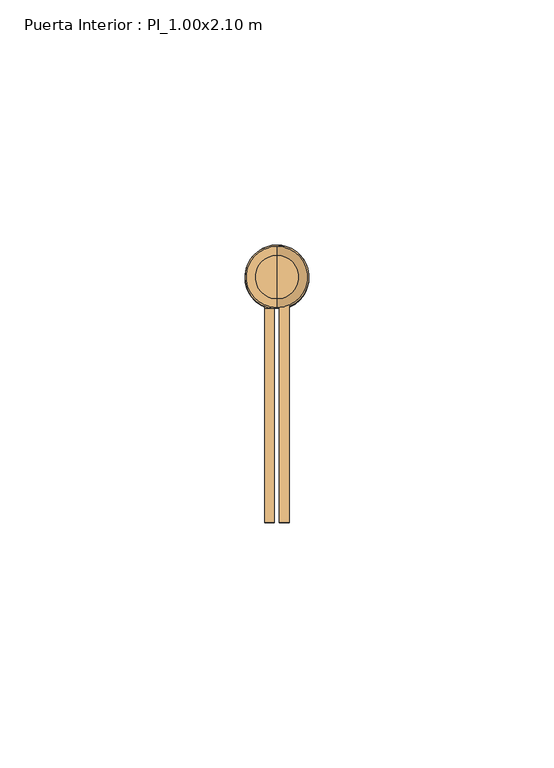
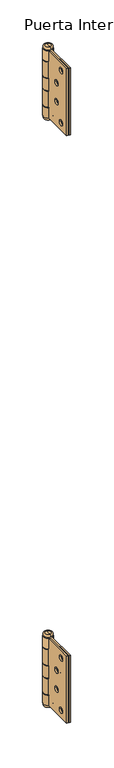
"""IFC4 building model written with IfcOpenShell, lengths in millimetres: door geometry, Puerta Interior : PI_1.00x2.10 m."""

from ifc_helpers import new_model, si_unit, point, frame, origin, place, context, project, spatial, polyline, circle_curve, ellipse_curve, trimmed, source, transform, mapped, element, save
from ifc_brep_helpers import plane_surface, cylinder_surface, revolved_surface, advanced_brep


def puerta_interior_pi_1_00x2_10_m_4a7fa07f(model_context):
    return source(origin(), model_context, "Body", "AdvancedBrep", [
        advanced_brep(
        [(-464.0, 7.5, 1950.0), (-464.0, 7.5, 1850.0), (-464.0, 51.5, 1850.0), (-464.0, 51.5, 1865.5), (-464.0, 51.0, 1865.5), (-464.0, 51.0, 1891.0), (-464.0, 51.5, 1891.0), (-464.0, 51.5, 1909.0), (-464.0, 51.0, 1909.0), (-464.0, 51.0, 1934.5), (-464.0, 51.5, 1934.5), (-464.0, 51.5, 1950.0), (-464.0, 17.5, 1861.0), (-464.0, 25.5, 1861.0), (-464.0, 28.5, 1886.0), (-464.0, 36.5, 1886.0), (-464.0, 17.5, 1939.0), (-464.0, 25.5, 1939.0), (-464.0, 28.5, 1914.0), (-464.0, 36.5, 1914.0), (-466.0, 7.5, 1850.0), (-466.0, 7.5, 1950.0), (-466.0, 53.027864, 1950.0), (-466.0, 53.027864, 1934.5), (-466.0, 51.0, 1934.5), (-466.0, 51.0, 1909.0), (-466.0, 53.027864, 1909.0), (-466.0, 53.027864, 1891.0), (-466.0, 51.0, 1891.0), (-466.0, 51.0, 1865.5), (-466.0, 53.027864, 1865.5), (-466.0, 53.027864, 1850.0), (-466.0, 25.5, 1861.0), (-466.0, 17.5, 1861.0), (-466.0, 36.5, 1886.0), (-466.0, 28.5, 1886.0), (-466.0, 25.5, 1939.0), (-466.0, 17.5, 1939.0), (-466.0, 36.5, 1914.0), (-466.0, 28.5, 1914.0), (-467.0, 53.027864, 1850.0), (-467.0, 51.0192593, 1850.0), (-467.0, 51.0192593, 1950.0), (-467.0, 53.027864, 1950.0), (-467.0, 53.027864, 1934.5), (-467.0, 51.0192593, 1934.5), (-467.0, 51.0192593, 1909.0), (-467.0, 53.027864, 1909.0), (-467.0, 53.027864, 1891.0), (-467.0, 51.0192593, 1891.0), (-467.0, 51.0192593, 1865.5), (-467.0, 53.027864, 1865.5)],
        [
            (0, 1),
            (1, 2),
            (2, 3),
            (3, 4),
            (4, 5),
            (5, 6),
            (6, 7),
            (7, 8),
            (8, 9),
            (9, 10),
            (10, 11),
            (11, 0),
            (12, 13, circle_curve(frame((-464.0, 21.5, 1861.0), z_axis=(-1.0, 0.0, 0.0), x_axis=(0.0, -1.0, 0.0)), 4.0)),
            (13, 12, circle_curve(frame((-464.0, 21.5, 1861.0), z_axis=(-1.0, 0.0, 0.0), x_axis=(0.0, -1.0, 0.0)), 4.0)),
            (14, 15, circle_curve(frame((-464.0, 32.5, 1886.0), z_axis=(-1.0, 0.0, 0.0), x_axis=(0.0, -1.0, 0.0)), 4.0)),
            (15, 14, circle_curve(frame((-464.0, 32.5, 1886.0), z_axis=(-1.0, 0.0, 0.0), x_axis=(0.0, -1.0, 0.0)), 4.0)),
            (16, 17, circle_curve(frame((-464.0, 21.5, 1939.0), z_axis=(-1.0, 0.0, 0.0), x_axis=(0.0, -1.0, 0.0)), 4.0)),
            (17, 16, circle_curve(frame((-464.0, 21.5, 1939.0), z_axis=(-1.0, 0.0, 0.0), x_axis=(0.0, -1.0, 0.0)), 4.0)),
            (18, 19, circle_curve(frame((-464.0, 32.5, 1914.0), z_axis=(-1.0, 0.0, 0.0), x_axis=(0.0, -1.0, 0.0)), 4.0)),
            (19, 18, circle_curve(frame((-464.0, 32.5, 1914.0), z_axis=(-1.0, 0.0, 0.0), x_axis=(0.0, -1.0, 0.0)), 4.0)),
            (20, 21),
            (21, 22),
            (22, 23),
            (23, 24),
            (24, 25),
            (25, 26),
            (26, 27),
            (27, 28),
            (28, 29),
            (29, 30),
            (30, 31),
            (31, 20),
            (32, 33, circle_curve(frame((-466.0, 21.5, 1861.0), z_axis=(1.0, 0.0, 0.0), x_axis=(0.0, -1.0, 0.0)), 4.0)),
            (33, 32, circle_curve(frame((-466.0, 21.5, 1861.0), z_axis=(1.0, 0.0, 0.0), x_axis=(0.0, -1.0, 0.0)), 4.0)),
            (34, 35, circle_curve(frame((-466.0, 32.5, 1886.0), z_axis=(1.0, 0.0, 0.0), x_axis=(0.0, -1.0, 0.0)), 4.0)),
            (35, 34, circle_curve(frame((-466.0, 32.5, 1886.0), z_axis=(1.0, 0.0, 0.0), x_axis=(0.0, -1.0, 0.0)), 4.0)),
            (36, 37, circle_curve(frame((-466.0, 21.5, 1939.0), z_axis=(1.0, 0.0, 0.0), x_axis=(0.0, -1.0, 0.0)), 4.0)),
            (37, 36, circle_curve(frame((-466.0, 21.5, 1939.0), z_axis=(1.0, 0.0, 0.0), x_axis=(0.0, -1.0, 0.0)), 4.0)),
            (38, 39, circle_curve(frame((-466.0, 32.5, 1914.0), z_axis=(1.0, 0.0, 0.0), x_axis=(0.0, -1.0, 0.0)), 4.0)),
            (39, 38, circle_curve(frame((-466.0, 32.5, 1914.0), z_axis=(1.0, 0.0, 0.0), x_axis=(0.0, -1.0, 0.0)), 4.0)),
            (1, 20),
            (31, 40, circle_curve(frame((-466.5, 57.5, 1850.0), z_axis=(0.0, 0.0, 1.0), x_axis=(0.0, 1.0, 0.0)), 4.5)),
            (40, 41),
            (41, 2, circle_curve(frame((-466.5, 57.5, 1850.0), z_axis=(0.0, 0.0, -1.0), x_axis=(0.0, 1.0, 0.0)), 6.5)),
            (0, 21),
            (11, 42, circle_curve(frame((-466.5, 57.5, 1950.0), z_axis=(0.0, 0.0, 1.0), x_axis=(0.0, 1.0, 0.0)), 6.5)),
            (42, 43),
            (43, 22, circle_curve(frame((-466.5, 57.5, 1950.0), z_axis=(0.0, 0.0, -1.0), x_axis=(0.0, 1.0, 0.0)), 4.5)),
            (24, 9),
            (8, 25),
            (28, 5),
            (4, 29),
            (23, 44, circle_curve(frame((-466.5, 57.5, 1934.5), z_axis=(0.0, 0.0, 1.0), x_axis=(0.0, 1.0, 0.0)), 4.5)),
            (44, 45),
            (45, 10, circle_curve(frame((-466.5, 57.5, 1934.5), z_axis=(0.0, 0.0, -1.0), x_axis=(0.0, 1.0, 0.0)), 6.5)),
            (45, 42),
            (44, 43),
            (7, 46, circle_curve(frame((-466.5, 57.5, 1909.0), z_axis=(0.0, 0.0, 1.0), x_axis=(0.0, 1.0, 0.0)), 6.5)),
            (46, 47),
            (47, 26, circle_curve(frame((-466.5, 57.5, 1909.0), z_axis=(0.0, 0.0, -1.0), x_axis=(0.0, 1.0, 0.0)), 4.5)),
            (27, 48, circle_curve(frame((-466.5, 57.5, 1891.0), z_axis=(0.0, 0.0, 1.0), x_axis=(0.0, 1.0, 0.0)), 4.5)),
            (48, 49),
            (49, 6, circle_curve(frame((-466.5, 57.5, 1891.0), z_axis=(0.0, 0.0, -1.0), x_axis=(0.0, 1.0, 0.0)), 6.5)),
            (49, 46),
            (48, 47),
            (3, 50, circle_curve(frame((-466.5, 57.5, 1865.5), z_axis=(0.0, 0.0, 1.0), x_axis=(0.0, 1.0, 0.0)), 6.5)),
            (50, 51),
            (51, 30, circle_curve(frame((-466.5, 57.5, 1865.5), z_axis=(0.0, 0.0, -1.0), x_axis=(0.0, 1.0, 0.0)), 4.5)),
            (41, 50),
            (40, 51),
            (32, 13),
            (12, 33),
            (34, 15),
            (14, 35),
            (36, 17),
            (16, 37),
            (38, 19),
            (18, 39),
        ],
        [
            plane_surface(frame((-464.0, 51.0, 1850.0), z_axis=(1.0, 0.0, 0.0), x_axis=(0.0, 0.0, 1.0))),
            plane_surface(frame((-466.0, 51.0, 1850.0), z_axis=(-1.0, 0.0, 0.0), x_axis=(0.0, 0.0, -1.0))),
            plane_surface(frame((-464.0, 7.5, 1850.0), z_axis=(0.0, 0.0, -1.0), x_axis=(-1.0, 0.0, 0.0))),
            plane_surface(frame((-464.0, 7.5, 1950.0), z_axis=(0.0, -1.0, 0.0), x_axis=(-1.0, 0.0, 0.0))),
            plane_surface(frame((-464.0, 51.0, 1950.0), z_axis=(0.0, 0.0, 1.0), x_axis=(-1.0, 0.0, 0.0))),
            plane_surface(frame((-464.0, 51.0, 1850.0), z_axis=(0.0, 1.0, 0.0), x_axis=(-1.0, 0.0, 0.0))),
            plane_surface(frame((-466.0, 51.0, 1934.5), z_axis=(0.0, 0.0, -1.0), x_axis=(0.0, 1.0, 0.0))),
            cylinder_surface(frame((-466.5, 57.5, 1934.5), z_axis=(0.0, 0.0, 1.0), x_axis=(0.0, 1.0, 0.0)), 6.5),
            plane_surface(frame((-467.0, 51.0192593, 1950.0), z_axis=(1.0, 0.0, 0.0), x_axis=(0.0, 0.0, -1.0))),
            revolved_surface(polyline([(-466.5, 62.0, 1934.5), (-466.5, 62.0, 1950.0)]), (-466.5, 57.5, 1934.5), (0.0, 0.0, -1.0)),
            plane_surface(frame((-466.0, 51.0, 1909.0), z_axis=(0.0, 0.0, 1.0), x_axis=(0.0, -1.0, 0.0))),
            plane_surface(frame((-466.0, 51.0, 1891.0), z_axis=(0.0, 0.0, -1.0), x_axis=(0.0, 1.0, 0.0))),
            cylinder_surface(frame((-466.5, 57.5, 1891.0), z_axis=(0.0, 0.0, 1.0), x_axis=(0.0, 1.0, 0.0)), 6.5),
            plane_surface(frame((-467.0, 51.0192593, 1909.0), z_axis=(1.0, 0.0, 0.0), x_axis=(0.0, 0.0, -1.0))),
            revolved_surface(polyline([(-466.5, 62.0, 1891.0), (-466.5, 62.0, 1909.0)]), (-466.5, 57.5, 1891.0), (0.0, 0.0, -1.0)),
            plane_surface(frame((-466.0, 51.0, 1865.5), z_axis=(0.0, 0.0, 1.0), x_axis=(0.0, -1.0, 0.0))),
            cylinder_surface(frame((-466.5, 57.5, 1850.0), z_axis=(0.0, 0.0, 1.0), x_axis=(0.0, 1.0, 0.0)), 6.5),
            plane_surface(frame((-467.0, 51.0192593, 1865.5), z_axis=(1.0, 0.0, 0.0), x_axis=(0.0, 0.0, -1.0))),
            revolved_surface(polyline([(-466.5, 62.0, 1850.0), (-466.5, 62.0, 1865.5)]), (-466.5, 57.5, 1850.0), (0.0, 0.0, -1.0)),
            revolved_surface(polyline([(-464.0, 17.5, 1861.0), (-466.0, 17.5, 1861.0)]), (-469.0, 21.5, 1861.0), (1.0, 0.0, 0.0)),
            revolved_surface(polyline([(-464.0, 28.5, 1886.0), (-466.0, 28.5, 1886.0)]), (-467.0, 32.5, 1886.0), (1.0, 0.0, 0.0)),
            revolved_surface(polyline([(-464.0, 17.5, 1939.0), (-466.0, 17.5, 1939.0)]), (-467.0, 21.5, 1939.0), (1.0, 0.0, 0.0)),
            revolved_surface(polyline([(-464.0, 28.5, 1914.0), (-466.0, 28.5, 1914.0)]), (-467.0, 32.5, 1914.0), (1.0, 0.0, 0.0)),
        ],
        [
            (0, [[1, 2, 3, 4, 5, 6, 7, 8, 9, 10, 11, 12], [13, 14], [15, 16], [17, 18], [19, 20]]),
            (1, [[21, 22, 23, 24, 25, 26, 27, 28, 29, 30, 31, 32], [33, 34], [35, 36], [37, 38], [39, 40]]),
            (2, [[41, -32, 42, 43, 44, -2]]),
            (3, [[-1, 45, -21, -41]]),
            (4, [[-45, -12, 46, 47, 48, -22]]),
            (5, [[49, -9, 50, -25]]),
            (5, [[51, -5, 52, -29]]),
            (6, [[53, 54, 55, -10, -49, -24]]),
            (7, [[-46, -11, -55, 56]]),
            (8, [[-47, -56, -54, 57]]),
            (9, [[-48, -57, -53, -23]]),
            (10, [[58, 59, 60, -26, -50, -8]]),
            (11, [[61, 62, 63, -6, -51, -28]]),
            (12, [[-58, -7, -63, 64]]),
            (13, [[-59, -64, -62, 65]]),
            (14, [[-60, -65, -61, -27]]),
            (15, [[66, 67, 68, -30, -52, -4]]),
            (16, [[-66, -3, -44, 69]]),
            (17, [[-67, -69, -43, 70]]),
            (18, [[-68, -70, -42, -31]]),
            (19, [[71, -13, 72, -33]]),
            (19, [[-71, -34, -72, -14]]),
            (20, [[73, -15, 74, -35]]),
            (20, [[-73, -36, -74, -16]]),
            (21, [[75, -17, 76, -37]]),
            (21, [[-75, -38, -76, -18]]),
            (22, [[77, -19, 78, -39]]),
            (22, [[-77, -40, -78, -20]]),
        ],
    ),
        advanced_brep(
        [(-466.5, 53.0, 1954.0), (-466.5, 61.9442719, 1954.0), (-466.5, 61.9442719, 1950.5), (-466.5, 53.0, 1950.5), (-466.5, 57.472136, 1954.0), (-466.5, 53.0, 1846.0), (-466.5, 61.9442719, 1846.0), (-466.5, 57.472136, 1846.0), (-466.5, 53.0, 1849.5), (-466.5, 61.9442719, 1849.5)],
        [
            (0, 1, circle_curve(frame((-466.5, 57.472136, 1954.0), z_axis=(0.0, 0.0, -1.0), x_axis=(0.0, 1.0, 0.0)), 4.472136)),
            (1, 2, circle_curve(frame((-466.5, 61.9442719, 1952.25), z_axis=(-1.0, 0.0, 0.0), x_axis=(0.0, -1.0, 0.0)), 1.75)),
            (2, 3, circle_curve(frame((-466.5, 57.472136, 1950.5), z_axis=(0.0, 0.0, 1.0), x_axis=(0.0, 1.0, 0.0)), 4.472136)),
            (3, 0, circle_curve(frame((-466.5, 53.0, 1952.25), z_axis=(-1.0, 0.0, 0.0), x_axis=(0.0, 1.0, 0.0)), 1.75)),
            (1, 0, circle_curve(frame((-466.5, 57.472136, 1954.0), z_axis=(0.0, 0.0, -1.0), x_axis=(0.0, 1.0, 0.0)), 4.472136)),
            (3, 2, circle_curve(frame((-466.5, 57.472136, 1950.5), z_axis=(0.0, 0.0, 1.0), x_axis=(0.0, 1.0, 0.0)), 4.472136)),
            (4, 1),
            (0, 4),
            (5, 6, circle_curve(frame((-466.5, 57.472136, 1846.0), z_axis=(0.0, 0.0, -1.0), x_axis=(0.0, 1.0, 0.0)), 4.472136)),
            (6, 7),
            (7, 5),
            (6, 5, circle_curve(frame((-466.5, 57.472136, 1846.0), z_axis=(0.0, 0.0, -1.0), x_axis=(0.0, 1.0, 0.0)), 4.472136)),
            (8, 9, circle_curve(frame((-466.5, 57.472136, 1849.5), z_axis=(0.0, 0.0, -1.0), x_axis=(0.0, 1.0, 0.0)), 4.472136)),
            (9, 6, circle_curve(frame((-466.5, 61.9442719, 1847.75), z_axis=(-1.0, 0.0, 0.0), x_axis=(0.0, -1.0, 0.0)), 1.75)),
            (5, 8, circle_curve(frame((-466.5, 53.0, 1847.75), z_axis=(-1.0, 0.0, 0.0), x_axis=(0.0, 1.0, 0.0)), 1.75)),
            (9, 8, circle_curve(frame((-466.5, 57.472136, 1849.5), z_axis=(0.0, 0.0, -1.0), x_axis=(0.0, 1.0, 0.0)), 4.472136)),
            (2, 9),
            (8, 3),
        ],
        [
            revolved_surface(trimmed(ellipse_curve(frame((-466.5, 61.9442719, 1952.25), z_axis=(1.0, 0.0, 0.0), x_axis=(0.0, -1.0, 0.0)), 1.75, 1.75), [point((-466.5, 61.9442719, 1950.5))], [point((-466.5, 61.9442719, 1954.0))], True, "CARTESIAN"), (-466.5, 57.472136, 1954.0), (0.0, 0.0, 1.0)),
            plane_surface(frame((-466.5, 57.472136, 1954.0), z_axis=(0.0, 0.0, 1.0), x_axis=(0.0, 1.0, 0.0))),
            plane_surface(frame((-466.5, 57.472136, 1846.0), z_axis=(0.0, 0.0, -1.0), x_axis=(0.0, 1.0, 0.0))),
            revolved_surface(trimmed(ellipse_curve(frame((-466.5, 61.9442719, 1847.75), z_axis=(1.0, 0.0, 0.0), x_axis=(0.0, -1.0, 0.0)), 1.75, 1.75), [point((-466.5, 61.9442719, 1846.0))], [point((-466.5, 61.9442719, 1849.5))], True, "CARTESIAN"), (-466.5, 57.472136, 1954.0), (0.0, 0.0, 1.0)),
            cylinder_surface(frame((-466.5, 57.472136, 1954.0), z_axis=(0.0, 0.0, 1.0), x_axis=(0.0, 1.0, 0.0)), 4.472136),
        ],
        [
            (0, [[1, 2, 3, 4]]),
            (0, [[5, -4, 6, -2]]),
            (1, [[7, -1, 8]]),
            (1, [[-8, -5, -7]]),
            (2, [[9, 10, 11]]),
            (2, [[12, -11, -10]]),
            (3, [[13, 14, -9, 15]]),
            (3, [[16, -15, -12, -14]]),
            (4, [[-3, 17, -13, 18]]),
            (4, [[-6, -18, -16, -17]]),
        ],
    ),
        advanced_brep(
        [(-467.0, 51.0, 1950.0), (-467.0, 7.5, 1950.0), (-467.0, 7.5, 1850.0), (-467.0, 51.0, 1850.0), (-467.0, 51.0, 1866.5), (-467.0, 53.027864, 1866.5), (-467.0, 53.027864, 1890.0), (-467.0, 51.0, 1890.0), (-467.0, 51.0, 1910.0), (-467.0, 53.027864, 1910.0), (-467.0, 53.027864, 1933.5), (-467.0, 51.0, 1933.5), (-467.0, 17.5, 1861.0), (-467.0, 25.5, 1861.0), (-467.0, 28.5, 1886.0), (-467.0, 36.5, 1886.0), (-467.0, 17.5, 1939.0), (-467.0, 25.5, 1939.0), (-467.0, 28.5, 1914.0), (-467.0, 36.5, 1914.0), (-469.0, 51.0, 1850.0), (-469.0, 7.5, 1850.0), (-469.0, 7.5, 1950.0), (-469.0, 51.0, 1950.0), (-469.0, 51.0, 1933.5), (-469.0, 51.5, 1933.5), (-469.0, 51.5, 1910.0), (-469.0, 51.0, 1910.0), (-469.0, 51.0, 1890.0), (-469.0, 51.5, 1890.0), (-469.0, 51.5, 1866.5), (-469.0, 51.0, 1866.5), (-469.0, 25.5, 1861.0), (-469.0, 17.5, 1861.0), (-469.0, 36.5, 1886.0), (-469.0, 28.5, 1886.0), (-469.0, 25.5, 1939.0), (-469.0, 17.5, 1939.0), (-469.0, 36.5, 1914.0), (-469.0, 28.5, 1914.0), (-466.0, 53.027864, 1933.5), (-466.0, 51.0192593, 1933.5), (-466.0, 51.0192593, 1910.0), (-466.0, 53.027864, 1910.0), (-466.0, 53.027864, 1890.0), (-466.0, 51.0192593, 1890.0), (-466.0, 51.0192593, 1866.5), (-466.0, 53.027864, 1866.5)],
        [
            (0, 1),
            (1, 2),
            (2, 3),
            (3, 4),
            (4, 5),
            (5, 6),
            (6, 7),
            (7, 8),
            (8, 9),
            (9, 10),
            (10, 11),
            (11, 0),
            (12, 13, circle_curve(frame((-467.0, 21.5, 1861.0), z_axis=(-1.0, 0.0, 0.0), x_axis=(0.0, -1.0, 0.0)), 4.0)),
            (13, 12, circle_curve(frame((-467.0, 21.5, 1861.0), z_axis=(-1.0, 0.0, 0.0), x_axis=(0.0, -1.0, 0.0)), 4.0)),
            (14, 15, circle_curve(frame((-467.0, 32.5, 1886.0), z_axis=(-1.0, 0.0, 0.0), x_axis=(0.0, -1.0, 0.0)), 4.0)),
            (15, 14, circle_curve(frame((-467.0, 32.5, 1886.0), z_axis=(-1.0, 0.0, 0.0), x_axis=(0.0, -1.0, 0.0)), 4.0)),
            (16, 17, circle_curve(frame((-467.0, 21.5, 1939.0), z_axis=(-1.0, 0.0, 0.0), x_axis=(0.0, -1.0, 0.0)), 4.0)),
            (17, 16, circle_curve(frame((-467.0, 21.5, 1939.0), z_axis=(-1.0, 0.0, 0.0), x_axis=(0.0, -1.0, 0.0)), 4.0)),
            (18, 19, circle_curve(frame((-467.0, 32.5, 1914.0), z_axis=(-1.0, 0.0, 0.0), x_axis=(0.0, -1.0, 0.0)), 4.0)),
            (19, 18, circle_curve(frame((-467.0, 32.5, 1914.0), z_axis=(-1.0, 0.0, 0.0), x_axis=(0.0, -1.0, 0.0)), 4.0)),
            (20, 21),
            (21, 22),
            (22, 23),
            (23, 24),
            (24, 25),
            (25, 26),
            (26, 27),
            (27, 28),
            (28, 29),
            (29, 30),
            (30, 31),
            (31, 20),
            (32, 33, circle_curve(frame((-469.0, 21.5, 1861.0), z_axis=(1.0, 0.0, 0.0), x_axis=(0.0, -1.0, 0.0)), 4.0)),
            (33, 32, circle_curve(frame((-469.0, 21.5, 1861.0), z_axis=(1.0, 0.0, 0.0), x_axis=(0.0, -1.0, 0.0)), 4.0)),
            (34, 35, circle_curve(frame((-469.0, 32.5, 1886.0), z_axis=(1.0, 0.0, 0.0), x_axis=(0.0, -1.0, 0.0)), 4.0)),
            (35, 34, circle_curve(frame((-469.0, 32.5, 1886.0), z_axis=(1.0, 0.0, 0.0), x_axis=(0.0, -1.0, 0.0)), 4.0)),
            (36, 37, circle_curve(frame((-469.0, 21.5, 1939.0), z_axis=(1.0, 0.0, 0.0), x_axis=(0.0, -1.0, 0.0)), 4.0)),
            (37, 36, circle_curve(frame((-469.0, 21.5, 1939.0), z_axis=(1.0, 0.0, 0.0), x_axis=(0.0, -1.0, 0.0)), 4.0)),
            (38, 39, circle_curve(frame((-469.0, 32.5, 1914.0), z_axis=(1.0, 0.0, 0.0), x_axis=(0.0, -1.0, 0.0)), 4.0)),
            (39, 38, circle_curve(frame((-469.0, 32.5, 1914.0), z_axis=(1.0, 0.0, 0.0), x_axis=(0.0, -1.0, 0.0)), 4.0)),
            (2, 21),
            (20, 3),
            (1, 22),
            (0, 23),
            (11, 24),
            (31, 4),
            (27, 8),
            (7, 28),
            (10, 40, circle_curve(frame((-466.5, 57.5, 1933.5), z_axis=(0.0, 0.0, -1.0), x_axis=(0.0, 1.0, 0.0)), 4.5)),
            (40, 41),
            (41, 25, circle_curve(frame((-466.5, 57.5, 1933.5), z_axis=(0.0, 0.0, 1.0), x_axis=(0.0, 1.0, 0.0)), 6.5)),
            (26, 42, circle_curve(frame((-466.5, 57.5, 1910.0), z_axis=(0.0, 0.0, -1.0), x_axis=(0.0, 1.0, 0.0)), 6.5)),
            (42, 43),
            (43, 9, circle_curve(frame((-466.5, 57.5, 1910.0), z_axis=(0.0, 0.0, 1.0), x_axis=(0.0, 1.0, 0.0)), 4.5)),
            (41, 42),
            (40, 43),
            (6, 44, circle_curve(frame((-466.5, 57.5, 1890.0), z_axis=(0.0, 0.0, -1.0), x_axis=(0.0, 1.0, 0.0)), 4.5)),
            (44, 45),
            (45, 29, circle_curve(frame((-466.5, 57.5, 1890.0), z_axis=(0.0, 0.0, 1.0), x_axis=(0.0, 1.0, 0.0)), 6.5)),
            (30, 46, circle_curve(frame((-466.5, 57.5, 1866.5), z_axis=(0.0, 0.0, -1.0), x_axis=(0.0, 1.0, 0.0)), 6.5)),
            (46, 47),
            (47, 5, circle_curve(frame((-466.5, 57.5, 1866.5), z_axis=(0.0, 0.0, 1.0), x_axis=(0.0, 1.0, 0.0)), 4.5)),
            (45, 46),
            (44, 47),
            (32, 13),
            (12, 33),
            (34, 15),
            (14, 35),
            (36, 17),
            (16, 37),
            (38, 19),
            (18, 39),
        ],
        [
            plane_surface(frame((-467.0, 51.0, 1850.0), z_axis=(1.0, 0.0, 0.0), x_axis=(0.0, 0.0, 1.0))),
            plane_surface(frame((-469.0, 51.0, 1850.0), z_axis=(-1.0, 0.0, 0.0), x_axis=(0.0, 0.0, -1.0))),
            plane_surface(frame((-467.0, 7.5, 1850.0), z_axis=(0.0, 0.0, -1.0), x_axis=(-1.0, 0.0, 0.0))),
            plane_surface(frame((-467.0, 7.5, 1950.0), z_axis=(0.0, -1.0, 0.0), x_axis=(-1.0, 0.0, 0.0))),
            plane_surface(frame((-467.0, 51.0, 1950.0), z_axis=(0.0, 0.0, 1.0), x_axis=(-1.0, 0.0, 0.0))),
            plane_surface(frame((-467.0, 51.0, 1850.0), z_axis=(0.0, 1.0, 0.0), x_axis=(-1.0, 0.0, 0.0))),
            plane_surface(frame((-466.5, 62.0, 1933.5), z_axis=(0.0, 0.0, 1.0), x_axis=(1.0, 0.0, 0.0))),
            plane_surface(frame((-466.5, 62.0, 1910.0), z_axis=(0.0, 0.0, -1.0), x_axis=(-1.0, 0.0, 0.0))),
            cylinder_surface(frame((-466.5, 57.5, 1910.0), z_axis=(0.0, 0.0, 1.0), x_axis=(0.0, 1.0, 0.0)), 6.5),
            plane_surface(frame((-466.0, 53.027864, 1933.5), z_axis=(-1.0, 0.0, 0.0), x_axis=(0.0, 0.0, -1.0))),
            revolved_surface(polyline([(-466.5, 62.0, 1910.0), (-466.5, 62.0, 1933.5)]), (-466.5, 57.5, 1910.0), (0.0, 0.0, -1.0)),
            plane_surface(frame((-466.5, 62.0, 1890.0), z_axis=(0.0, 0.0, 1.0), x_axis=(1.0, 0.0, 0.0))),
            plane_surface(frame((-466.5, 62.0, 1866.5), z_axis=(0.0, 0.0, -1.0), x_axis=(-1.0, 0.0, 0.0))),
            cylinder_surface(frame((-466.5, 57.5, 1866.5), z_axis=(0.0, 0.0, 1.0), x_axis=(0.0, 1.0, 0.0)), 6.5),
            plane_surface(frame((-466.0, 53.027864, 1890.0), z_axis=(-1.0, 0.0, 0.0), x_axis=(0.0, 0.0, -1.0))),
            revolved_surface(polyline([(-466.5, 62.0, 1866.5), (-466.5, 62.0, 1890.0)]), (-466.5, 57.5, 1866.5), (0.0, 0.0, -1.0)),
            revolved_surface(polyline([(-467.0, 17.5, 1861.0), (-469.0, 17.5, 1861.0)]), (-469.0, 21.5, 1861.0), (1.0, 0.0, 0.0)),
            revolved_surface(polyline([(-467.0, 28.5, 1886.0), (-469.0, 28.5, 1886.0)]), (-467.0, 32.5, 1886.0), (1.0, 0.0, 0.0)),
            revolved_surface(polyline([(-467.0, 17.5, 1939.0), (-469.0, 17.5, 1939.0)]), (-467.0, 21.5, 1939.0), (1.0, 0.0, 0.0)),
            revolved_surface(polyline([(-467.0, 28.5, 1914.0), (-469.0, 28.5, 1914.0)]), (-467.0, 32.5, 1914.0), (1.0, 0.0, 0.0)),
        ],
        [
            (0, [[1, 2, 3, 4, 5, 6, 7, 8, 9, 10, 11, 12], [13, 14], [15, 16], [17, 18], [19, 20]]),
            (1, [[21, 22, 23, 24, 25, 26, 27, 28, 29, 30, 31, 32], [33, 34], [35, 36], [37, 38], [39, 40]]),
            (2, [[-3, 41, -21, 42]]),
            (3, [[-2, 43, -22, -41]]),
            (4, [[-1, 44, -23, -43]]),
            (5, [[-44, -12, 45, -24]]),
            (5, [[-42, -32, 46, -4]]),
            (5, [[47, -8, 48, -28]]),
            (6, [[49, 50, 51, -25, -45, -11]]),
            (7, [[52, 53, 54, -9, -47, -27]]),
            (8, [[-51, 55, -52, -26]]),
            (9, [[-50, 56, -53, -55]]),
            (10, [[-49, -10, -54, -56]]),
            (11, [[57, 58, 59, -29, -48, -7]]),
            (12, [[60, 61, 62, -5, -46, -31]]),
            (13, [[-59, 63, -60, -30]]),
            (14, [[-58, 64, -61, -63]]),
            (15, [[-57, -6, -62, -64]]),
            (16, [[65, -13, 66, -33]]),
            (16, [[-65, -34, -66, -14]]),
            (17, [[67, -15, 68, -35]]),
            (17, [[-67, -36, -68, -16]]),
            (18, [[69, -17, 70, -37]]),
            (18, [[-69, -38, -70, -18]]),
            (19, [[71, -19, 72, -39]]),
            (19, [[-71, -40, -72, -20]]),
        ],
    ),
        advanced_brep(
        [(-464.0, 7.5, 1075.0174632), (-464.0, 7.5, 975.0174632), (-464.0, 51.5, 975.0174632), (-464.0, 51.5, 990.5174632), (-464.0, 51.0, 990.5174632), (-464.0, 51.0, 1016.0174632), (-464.0, 51.5, 1016.0174632), (-464.0, 51.5, 1034.0174632), (-464.0, 51.0, 1034.0174632), (-464.0, 51.0, 1059.5174632), (-464.0, 51.5, 1059.5174632), (-464.0, 51.5, 1075.0174632), (-464.0, 17.5, 986.0174632), (-464.0, 25.5, 986.0174632), (-464.0, 28.5, 1011.0174632), (-464.0, 36.5, 1011.0174632), (-464.0, 17.5, 1064.0174632), (-464.0, 25.5, 1064.0174632), (-464.0, 28.5, 1039.0174632), (-464.0, 36.5, 1039.0174632), (-466.0, 7.5, 975.0174632), (-466.0, 7.5, 1075.0174632), (-466.0, 53.027864, 1075.0174632), (-466.0, 53.027864, 1059.5174632), (-466.0, 51.0, 1059.5174632), (-466.0, 51.0, 1034.0174632), (-466.0, 53.027864, 1034.0174632), (-466.0, 53.027864, 1016.0174632), (-466.0, 51.0, 1016.0174632), (-466.0, 51.0, 990.5174632), (-466.0, 53.027864, 990.5174632), (-466.0, 53.027864, 975.0174632), (-466.0, 25.5, 986.0174632), (-466.0, 17.5, 986.0174632), (-466.0, 36.5, 1011.0174632), (-466.0, 28.5, 1011.0174632), (-466.0, 25.5, 1064.0174632), (-466.0, 17.5, 1064.0174632), (-466.0, 36.5, 1039.0174632), (-466.0, 28.5, 1039.0174632), (-467.0, 53.027864, 975.0174632), (-467.0, 51.0192593, 975.0174632), (-467.0, 51.0192593, 1075.0174632), (-467.0, 53.027864, 1075.0174632), (-467.0, 53.027864, 1059.5174632), (-467.0, 51.0192593, 1059.5174632), (-467.0, 51.0192593, 1034.0174632), (-467.0, 53.027864, 1034.0174632), (-467.0, 53.027864, 1016.0174632), (-467.0, 51.0192593, 1016.0174632), (-467.0, 51.0192593, 990.5174632), (-467.0, 53.027864, 990.5174632)],
        [
            (0, 1),
            (1, 2),
            (2, 3),
            (3, 4),
            (4, 5),
            (5, 6),
            (6, 7),
            (7, 8),
            (8, 9),
            (9, 10),
            (10, 11),
            (11, 0),
            (12, 13, circle_curve(frame((-464.0, 21.5, 986.0174632), z_axis=(-1.0, 0.0, 0.0), x_axis=(0.0, -1.0, 0.0)), 4.0)),
            (13, 12, circle_curve(frame((-464.0, 21.5, 986.0174632), z_axis=(-1.0, 0.0, 0.0), x_axis=(0.0, -1.0, 0.0)), 4.0)),
            (14, 15, circle_curve(frame((-464.0, 32.5, 1011.0174632), z_axis=(-1.0, 0.0, 0.0), x_axis=(0.0, -1.0, 0.0)), 4.0)),
            (15, 14, circle_curve(frame((-464.0, 32.5, 1011.0174632), z_axis=(-1.0, 0.0, 0.0), x_axis=(0.0, -1.0, 0.0)), 4.0)),
            (16, 17, circle_curve(frame((-464.0, 21.5, 1064.0174632), z_axis=(-1.0, 0.0, 0.0), x_axis=(0.0, -1.0, 0.0)), 4.0)),
            (17, 16, circle_curve(frame((-464.0, 21.5, 1064.0174632), z_axis=(-1.0, 0.0, 0.0), x_axis=(0.0, -1.0, 0.0)), 4.0)),
            (18, 19, circle_curve(frame((-464.0, 32.5, 1039.0174632), z_axis=(-1.0, 0.0, 0.0), x_axis=(0.0, -1.0, 0.0)), 4.0)),
            (19, 18, circle_curve(frame((-464.0, 32.5, 1039.0174632), z_axis=(-1.0, 0.0, 0.0), x_axis=(0.0, -1.0, 0.0)), 4.0)),
            (20, 21),
            (21, 22),
            (22, 23),
            (23, 24),
            (24, 25),
            (25, 26),
            (26, 27),
            (27, 28),
            (28, 29),
            (29, 30),
            (30, 31),
            (31, 20),
            (32, 33, circle_curve(frame((-466.0, 21.5, 986.0174632), z_axis=(1.0, 0.0, 0.0), x_axis=(0.0, -1.0, 0.0)), 4.0)),
            (33, 32, circle_curve(frame((-466.0, 21.5, 986.0174632), z_axis=(1.0, 0.0, 0.0), x_axis=(0.0, -1.0, 0.0)), 4.0)),
            (34, 35, circle_curve(frame((-466.0, 32.5, 1011.0174632), z_axis=(1.0, 0.0, 0.0), x_axis=(0.0, -1.0, 0.0)), 4.0)),
            (35, 34, circle_curve(frame((-466.0, 32.5, 1011.0174632), z_axis=(1.0, 0.0, 0.0), x_axis=(0.0, -1.0, 0.0)), 4.0)),
            (36, 37, circle_curve(frame((-466.0, 21.5, 1064.0174632), z_axis=(1.0, 0.0, 0.0), x_axis=(0.0, -1.0, 0.0)), 4.0)),
            (37, 36, circle_curve(frame((-466.0, 21.5, 1064.0174632), z_axis=(1.0, 0.0, 0.0), x_axis=(0.0, -1.0, 0.0)), 4.0)),
            (38, 39, circle_curve(frame((-466.0, 32.5, 1039.0174632), z_axis=(1.0, 0.0, 0.0), x_axis=(0.0, -1.0, 0.0)), 4.0)),
            (39, 38, circle_curve(frame((-466.0, 32.5, 1039.0174632), z_axis=(1.0, 0.0, 0.0), x_axis=(0.0, -1.0, 0.0)), 4.0)),
            (1, 20),
            (31, 40, circle_curve(frame((-466.5, 57.5, 975.0174632), z_axis=(0.0, 0.0, 1.0), x_axis=(0.0, 1.0, 0.0)), 4.5)),
            (40, 41),
            (41, 2, circle_curve(frame((-466.5, 57.5, 975.0174632), z_axis=(0.0, 0.0, -1.0), x_axis=(0.0, 1.0, 0.0)), 6.5)),
            (0, 21),
            (11, 42, circle_curve(frame((-466.5, 57.5, 1075.0174632), z_axis=(0.0, 0.0, 1.0), x_axis=(0.0, 1.0, 0.0)), 6.5)),
            (42, 43),
            (43, 22, circle_curve(frame((-466.5, 57.5, 1075.0174632), z_axis=(0.0, 0.0, -1.0), x_axis=(0.0, 1.0, 0.0)), 4.5)),
            (24, 9),
            (8, 25),
            (28, 5),
            (4, 29),
            (23, 44, circle_curve(frame((-466.5, 57.5, 1059.5174632), z_axis=(0.0, 0.0, 1.0), x_axis=(0.0, 1.0, 0.0)), 4.5)),
            (44, 45),
            (45, 10, circle_curve(frame((-466.5, 57.5, 1059.5174632), z_axis=(0.0, 0.0, -1.0), x_axis=(0.0, 1.0, 0.0)), 6.5)),
            (45, 42),
            (44, 43),
            (7, 46, circle_curve(frame((-466.5, 57.5, 1034.0174632), z_axis=(0.0, 0.0, 1.0), x_axis=(0.0, 1.0, 0.0)), 6.5)),
            (46, 47),
            (47, 26, circle_curve(frame((-466.5, 57.5, 1034.0174632), z_axis=(0.0, 0.0, -1.0), x_axis=(0.0, 1.0, 0.0)), 4.5)),
            (27, 48, circle_curve(frame((-466.5, 57.5, 1016.0174632), z_axis=(0.0, 0.0, 1.0), x_axis=(0.0, 1.0, 0.0)), 4.5)),
            (48, 49),
            (49, 6, circle_curve(frame((-466.5, 57.5, 1016.0174632), z_axis=(0.0, 0.0, -1.0), x_axis=(0.0, 1.0, 0.0)), 6.5)),
            (49, 46),
            (48, 47),
            (3, 50, circle_curve(frame((-466.5, 57.5, 990.5174632), z_axis=(0.0, 0.0, 1.0), x_axis=(0.0, 1.0, 0.0)), 6.5)),
            (50, 51),
            (51, 30, circle_curve(frame((-466.5, 57.5, 990.5174632), z_axis=(0.0, 0.0, -1.0), x_axis=(0.0, 1.0, 0.0)), 4.5)),
            (41, 50),
            (40, 51),
            (32, 13),
            (12, 33),
            (34, 15),
            (14, 35),
            (36, 17),
            (16, 37),
            (38, 19),
            (18, 39),
        ],
        [
            plane_surface(frame((-464.0, 51.0, 975.0174632), z_axis=(1.0, 0.0, 0.0), x_axis=(0.0, 0.0, 1.0))),
            plane_surface(frame((-466.0, 51.0, 975.0174632), z_axis=(-1.0, 0.0, 0.0), x_axis=(0.0, 0.0, -1.0))),
            plane_surface(frame((-464.0, 7.5, 975.0174632), z_axis=(0.0, 0.0, -1.0), x_axis=(-1.0, 0.0, 0.0))),
            plane_surface(frame((-464.0, 7.5, 1075.0174632), z_axis=(0.0, -1.0, 0.0), x_axis=(-1.0, 0.0, 0.0))),
            plane_surface(frame((-464.0, 51.0, 1075.0174632), z_axis=(0.0, 0.0, 1.0), x_axis=(-1.0, 0.0, 0.0))),
            plane_surface(frame((-464.0, 51.0, 975.0174632), z_axis=(0.0, 1.0, 0.0), x_axis=(-1.0, 0.0, 0.0))),
            plane_surface(frame((-466.0, 51.0, 1059.5174632), z_axis=(0.0, 0.0, -1.0), x_axis=(0.0, 1.0, 0.0))),
            cylinder_surface(frame((-466.5, 57.5, 1059.5174632), z_axis=(0.0, 0.0, 1.0), x_axis=(0.0, 1.0, 0.0)), 6.5),
            plane_surface(frame((-467.0, 51.0192593, 1075.0174632), z_axis=(1.0, 0.0, 0.0), x_axis=(0.0, 0.0, -1.0))),
            revolved_surface(polyline([(-466.5, 62.0, 1059.5174632), (-466.5, 62.0, 1075.0174632)]), (-466.5, 57.5, 1059.5174632), (0.0, 0.0, -1.0)),
            plane_surface(frame((-466.0, 51.0, 1034.0174632), z_axis=(0.0, 0.0, 1.0), x_axis=(0.0, -1.0, 0.0))),
            plane_surface(frame((-466.0, 51.0, 1016.0174632), z_axis=(0.0, 0.0, -1.0), x_axis=(0.0, 1.0, 0.0))),
            cylinder_surface(frame((-466.5, 57.5, 1016.0174632), z_axis=(0.0, 0.0, 1.0), x_axis=(0.0, 1.0, 0.0)), 6.5),
            plane_surface(frame((-467.0, 51.0192593, 1034.0174632), z_axis=(1.0, 0.0, 0.0), x_axis=(0.0, 0.0, -1.0))),
            revolved_surface(polyline([(-466.5, 62.0, 1016.0174632), (-466.5, 62.0, 1034.0174632)]), (-466.5, 57.5, 1016.0174632), (0.0, 0.0, -1.0)),
            plane_surface(frame((-466.0, 51.0, 990.5174632), z_axis=(0.0, 0.0, 1.0), x_axis=(0.0, -1.0, 0.0))),
            cylinder_surface(frame((-466.5, 57.5, 975.0174632), z_axis=(0.0, 0.0, 1.0), x_axis=(0.0, 1.0, 0.0)), 6.5),
            plane_surface(frame((-467.0, 51.0192593, 990.5174632), z_axis=(1.0, 0.0, 0.0), x_axis=(0.0, 0.0, -1.0))),
            revolved_surface(polyline([(-466.5, 62.0, 975.0174632), (-466.5, 62.0, 990.5174632)]), (-466.5, 57.5, 975.0174632), (0.0, 0.0, -1.0)),
            revolved_surface(polyline([(-464.0, 17.5, 986.0174632), (-466.0, 17.5, 986.0174632)]), (-469.0, 21.5, 986.0174632), (1.0, 0.0, 0.0)),
            revolved_surface(polyline([(-464.0, 28.5, 1011.0174632), (-466.0, 28.5, 1011.0174632)]), (-467.0, 32.5, 1011.0174632), (1.0, 0.0, 0.0)),
            revolved_surface(polyline([(-464.0, 17.5, 1064.0174632), (-466.0, 17.5, 1064.0174632)]), (-467.0, 21.5, 1064.0174632), (1.0, 0.0, 0.0)),
            revolved_surface(polyline([(-464.0, 28.5, 1039.0174632), (-466.0, 28.5, 1039.0174632)]), (-467.0, 32.5, 1039.0174632), (1.0, 0.0, 0.0)),
        ],
        [
            (0, [[1, 2, 3, 4, 5, 6, 7, 8, 9, 10, 11, 12], [13, 14], [15, 16], [17, 18], [19, 20]]),
            (1, [[21, 22, 23, 24, 25, 26, 27, 28, 29, 30, 31, 32], [33, 34], [35, 36], [37, 38], [39, 40]]),
            (2, [[41, -32, 42, 43, 44, -2]]),
            (3, [[-1, 45, -21, -41]]),
            (4, [[-45, -12, 46, 47, 48, -22]]),
            (5, [[49, -9, 50, -25]]),
            (5, [[51, -5, 52, -29]]),
            (6, [[53, 54, 55, -10, -49, -24]]),
            (7, [[-46, -11, -55, 56]]),
            (8, [[-47, -56, -54, 57]]),
            (9, [[-48, -57, -53, -23]]),
            (10, [[58, 59, 60, -26, -50, -8]]),
            (11, [[61, 62, 63, -6, -51, -28]]),
            (12, [[-58, -7, -63, 64]]),
            (13, [[-59, -64, -62, 65]]),
            (14, [[-60, -65, -61, -27]]),
            (15, [[66, 67, 68, -30, -52, -4]]),
            (16, [[-66, -3, -44, 69]]),
            (17, [[-67, -69, -43, 70]]),
            (18, [[-68, -70, -42, -31]]),
            (19, [[71, -13, 72, -33]]),
            (19, [[-71, -34, -72, -14]]),
            (20, [[73, -15, 74, -35]]),
            (20, [[-73, -36, -74, -16]]),
            (21, [[75, -17, 76, -37]]),
            (21, [[-75, -38, -76, -18]]),
            (22, [[77, -19, 78, -39]]),
            (22, [[-77, -40, -78, -20]]),
        ],
    ),
        advanced_brep(
        [(-466.5, 53.0, 1079.0174632), (-466.5, 61.9442719, 1079.0174632), (-466.5, 61.9442719, 1075.5174632), (-466.5, 53.0, 1075.5174632), (-466.5, 57.472136, 1079.0174632), (-466.5, 53.0, 971.0174632), (-466.5, 61.9442719, 971.0174632), (-466.5, 57.472136, 971.0174632), (-466.5, 53.0, 974.5174632), (-466.5, 61.9442719, 974.5174632)],
        [
            (0, 1, circle_curve(frame((-466.5, 57.472136, 1079.0174632), z_axis=(0.0, 0.0, -1.0), x_axis=(0.0, 1.0, 0.0)), 4.472136)),
            (1, 2, circle_curve(frame((-466.5, 61.9442719, 1077.2674632), z_axis=(-1.0, 0.0, 0.0), x_axis=(0.0, -1.0, 0.0)), 1.75)),
            (2, 3, circle_curve(frame((-466.5, 57.472136, 1075.5174632), z_axis=(0.0, 0.0, 1.0), x_axis=(0.0, 1.0, 0.0)), 4.472136)),
            (3, 0, circle_curve(frame((-466.5, 53.0, 1077.2674632), z_axis=(-1.0, 0.0, 0.0), x_axis=(0.0, 1.0, 0.0)), 1.75)),
            (1, 0, circle_curve(frame((-466.5, 57.472136, 1079.0174632), z_axis=(0.0, 0.0, -1.0), x_axis=(0.0, 1.0, 0.0)), 4.472136)),
            (3, 2, circle_curve(frame((-466.5, 57.472136, 1075.5174632), z_axis=(0.0, 0.0, 1.0), x_axis=(0.0, 1.0, 0.0)), 4.472136)),
            (4, 1),
            (0, 4),
            (5, 6, circle_curve(frame((-466.5, 57.472136, 971.0174632), z_axis=(0.0, 0.0, -1.0), x_axis=(0.0, 1.0, 0.0)), 4.472136)),
            (6, 7),
            (7, 5),
            (6, 5, circle_curve(frame((-466.5, 57.472136, 971.0174632), z_axis=(0.0, 0.0, -1.0), x_axis=(0.0, 1.0, 0.0)), 4.472136)),
            (8, 9, circle_curve(frame((-466.5, 57.472136, 974.5174632), z_axis=(0.0, 0.0, -1.0), x_axis=(0.0, 1.0, 0.0)), 4.472136)),
            (9, 6, circle_curve(frame((-466.5, 61.9442719, 972.7674632), z_axis=(-1.0, 0.0, 0.0), x_axis=(0.0, -1.0, 0.0)), 1.75)),
            (5, 8, circle_curve(frame((-466.5, 53.0, 972.7674632), z_axis=(-1.0, 0.0, 0.0), x_axis=(0.0, 1.0, 0.0)), 1.75)),
            (9, 8, circle_curve(frame((-466.5, 57.472136, 974.5174632), z_axis=(0.0, 0.0, -1.0), x_axis=(0.0, 1.0, 0.0)), 4.472136)),
            (2, 9),
            (8, 3),
        ],
        [
            revolved_surface(trimmed(ellipse_curve(frame((-466.5, 61.9442719, 1077.2674632), z_axis=(1.0, 0.0, 0.0), x_axis=(0.0, -1.0, 0.0)), 1.75, 1.75), [point((-466.5, 61.9442719, 1075.5174632))], [point((-466.5, 61.9442719, 1079.0174632))], True, "CARTESIAN"), (-466.5, 57.472136, 1079.0174632), (0.0, 0.0, 1.0)),
            plane_surface(frame((-466.5, 57.472136, 1079.0174632), z_axis=(0.0, 0.0, 1.0), x_axis=(0.0, 1.0, 0.0))),
            plane_surface(frame((-466.5, 57.472136, 971.0174632), z_axis=(0.0, 0.0, -1.0), x_axis=(0.0, 1.0, 0.0))),
            revolved_surface(trimmed(ellipse_curve(frame((-466.5, 61.9442719, 972.7674632), z_axis=(1.0, 0.0, 0.0), x_axis=(0.0, -1.0, 0.0)), 1.75, 1.75), [point((-466.5, 61.9442719, 971.0174632))], [point((-466.5, 61.9442719, 974.5174632))], True, "CARTESIAN"), (-466.5, 57.472136, 1079.0174632), (0.0, 0.0, 1.0)),
            cylinder_surface(frame((-466.5, 57.472136, 1079.0174632), z_axis=(0.0, 0.0, 1.0), x_axis=(0.0, 1.0, 0.0)), 4.472136),
        ],
        [
            (0, [[1, 2, 3, 4]]),
            (0, [[5, -4, 6, -2]]),
            (1, [[7, -1, 8]]),
            (1, [[-8, -5, -7]]),
            (2, [[9, 10, 11]]),
            (2, [[12, -11, -10]]),
            (3, [[13, 14, -9, 15]]),
            (3, [[16, -15, -12, -14]]),
            (4, [[-3, 17, -13, 18]]),
            (4, [[-6, -18, -16, -17]]),
        ],
    ),
        advanced_brep(
        [(-467.0, 51.0, 1075.0174632), (-467.0, 7.5, 1075.0174632), (-467.0, 7.5, 975.0174632), (-467.0, 51.0, 975.0174632), (-467.0, 51.0, 991.5174632), (-467.0, 53.027864, 991.5174632), (-467.0, 53.027864, 1015.0174632), (-467.0, 51.0, 1015.0174632), (-467.0, 51.0, 1035.0174632), (-467.0, 53.027864, 1035.0174632), (-467.0, 53.027864, 1058.5174632), (-467.0, 51.0, 1058.5174632), (-467.0, 17.5, 986.0174632), (-467.0, 25.5, 986.0174632), (-467.0, 28.5, 1011.0174632), (-467.0, 36.5, 1011.0174632), (-467.0, 17.5, 1064.0174632), (-467.0, 25.5, 1064.0174632), (-467.0, 28.5, 1039.0174632), (-467.0, 36.5, 1039.0174632), (-469.0, 51.0, 975.0174632), (-469.0, 7.5, 975.0174632), (-469.0, 7.5, 1075.0174632), (-469.0, 51.0, 1075.0174632), (-469.0, 51.0, 1058.5174632), (-469.0, 51.5, 1058.5174632), (-469.0, 51.5, 1035.0174632), (-469.0, 51.0, 1035.0174632), (-469.0, 51.0, 1015.0174632), (-469.0, 51.5, 1015.0174632), (-469.0, 51.5, 991.5174632), (-469.0, 51.0, 991.5174632), (-469.0, 25.5, 986.0174632), (-469.0, 17.5, 986.0174632), (-469.0, 36.5, 1011.0174632), (-469.0, 28.5, 1011.0174632), (-469.0, 25.5, 1064.0174632), (-469.0, 17.5, 1064.0174632), (-469.0, 36.5, 1039.0174632), (-469.0, 28.5, 1039.0174632), (-466.0, 53.027864, 1058.5174632), (-466.0, 51.0192593, 1058.5174632), (-466.0, 51.0192593, 1035.0174632), (-466.0, 53.027864, 1035.0174632), (-466.0, 53.027864, 1015.0174632), (-466.0, 51.0192593, 1015.0174632), (-466.0, 51.0192593, 991.5174632), (-466.0, 53.027864, 991.5174632)],
        [
            (0, 1),
            (1, 2),
            (2, 3),
            (3, 4),
            (4, 5),
            (5, 6),
            (6, 7),
            (7, 8),
            (8, 9),
            (9, 10),
            (10, 11),
            (11, 0),
            (12, 13, circle_curve(frame((-467.0, 21.5, 986.0174632), z_axis=(-1.0, 0.0, 0.0), x_axis=(0.0, -1.0, 0.0)), 4.0)),
            (13, 12, circle_curve(frame((-467.0, 21.5, 986.0174632), z_axis=(-1.0, 0.0, 0.0), x_axis=(0.0, -1.0, 0.0)), 4.0)),
            (14, 15, circle_curve(frame((-467.0, 32.5, 1011.0174632), z_axis=(-1.0, 0.0, 0.0), x_axis=(0.0, -1.0, 0.0)), 4.0)),
            (15, 14, circle_curve(frame((-467.0, 32.5, 1011.0174632), z_axis=(-1.0, 0.0, 0.0), x_axis=(0.0, -1.0, 0.0)), 4.0)),
            (16, 17, circle_curve(frame((-467.0, 21.5, 1064.0174632), z_axis=(-1.0, 0.0, 0.0), x_axis=(0.0, -1.0, 0.0)), 4.0)),
            (17, 16, circle_curve(frame((-467.0, 21.5, 1064.0174632), z_axis=(-1.0, 0.0, 0.0), x_axis=(0.0, -1.0, 0.0)), 4.0)),
            (18, 19, circle_curve(frame((-467.0, 32.5, 1039.0174632), z_axis=(-1.0, 0.0, 0.0), x_axis=(0.0, -1.0, 0.0)), 4.0)),
            (19, 18, circle_curve(frame((-467.0, 32.5, 1039.0174632), z_axis=(-1.0, 0.0, 0.0), x_axis=(0.0, -1.0, 0.0)), 4.0)),
            (20, 21),
            (21, 22),
            (22, 23),
            (23, 24),
            (24, 25),
            (25, 26),
            (26, 27),
            (27, 28),
            (28, 29),
            (29, 30),
            (30, 31),
            (31, 20),
            (32, 33, circle_curve(frame((-469.0, 21.5, 986.0174632), z_axis=(1.0, 0.0, 0.0), x_axis=(0.0, -1.0, 0.0)), 4.0)),
            (33, 32, circle_curve(frame((-469.0, 21.5, 986.0174632), z_axis=(1.0, 0.0, 0.0), x_axis=(0.0, -1.0, 0.0)), 4.0)),
            (34, 35, circle_curve(frame((-469.0, 32.5, 1011.0174632), z_axis=(1.0, 0.0, 0.0), x_axis=(0.0, -1.0, 0.0)), 4.0)),
            (35, 34, circle_curve(frame((-469.0, 32.5, 1011.0174632), z_axis=(1.0, 0.0, 0.0), x_axis=(0.0, -1.0, 0.0)), 4.0)),
            (36, 37, circle_curve(frame((-469.0, 21.5, 1064.0174632), z_axis=(1.0, 0.0, 0.0), x_axis=(0.0, -1.0, 0.0)), 4.0)),
            (37, 36, circle_curve(frame((-469.0, 21.5, 1064.0174632), z_axis=(1.0, 0.0, 0.0), x_axis=(0.0, -1.0, 0.0)), 4.0)),
            (38, 39, circle_curve(frame((-469.0, 32.5, 1039.0174632), z_axis=(1.0, 0.0, 0.0), x_axis=(0.0, -1.0, 0.0)), 4.0)),
            (39, 38, circle_curve(frame((-469.0, 32.5, 1039.0174632), z_axis=(1.0, 0.0, 0.0), x_axis=(0.0, -1.0, 0.0)), 4.0)),
            (2, 21),
            (20, 3),
            (1, 22),
            (0, 23),
            (11, 24),
            (31, 4),
            (27, 8),
            (7, 28),
            (10, 40, circle_curve(frame((-466.5, 57.5, 1058.5174632), z_axis=(0.0, 0.0, -1.0), x_axis=(0.0, 1.0, 0.0)), 4.5)),
            (40, 41),
            (41, 25, circle_curve(frame((-466.5, 57.5, 1058.5174632), z_axis=(0.0, 0.0, 1.0), x_axis=(0.0, 1.0, 0.0)), 6.5)),
            (26, 42, circle_curve(frame((-466.5, 57.5, 1035.0174632), z_axis=(0.0, 0.0, -1.0), x_axis=(0.0, 1.0, 0.0)), 6.5)),
            (42, 43),
            (43, 9, circle_curve(frame((-466.5, 57.5, 1035.0174632), z_axis=(0.0, 0.0, 1.0), x_axis=(0.0, 1.0, 0.0)), 4.5)),
            (41, 42),
            (40, 43),
            (6, 44, circle_curve(frame((-466.5, 57.5, 1015.0174632), z_axis=(0.0, 0.0, -1.0), x_axis=(0.0, 1.0, 0.0)), 4.5)),
            (44, 45),
            (45, 29, circle_curve(frame((-466.5, 57.5, 1015.0174632), z_axis=(0.0, 0.0, 1.0), x_axis=(0.0, 1.0, 0.0)), 6.5)),
            (30, 46, circle_curve(frame((-466.5, 57.5, 991.5174632), z_axis=(0.0, 0.0, -1.0), x_axis=(0.0, 1.0, 0.0)), 6.5)),
            (46, 47),
            (47, 5, circle_curve(frame((-466.5, 57.5, 991.5174632), z_axis=(0.0, 0.0, 1.0), x_axis=(0.0, 1.0, 0.0)), 4.5)),
            (45, 46),
            (44, 47),
            (32, 13),
            (12, 33),
            (34, 15),
            (14, 35),
            (36, 17),
            (16, 37),
            (38, 19),
            (18, 39),
        ],
        [
            plane_surface(frame((-467.0, 51.0, 975.0174632), z_axis=(1.0, 0.0, 0.0), x_axis=(0.0, 0.0, 1.0))),
            plane_surface(frame((-469.0, 51.0, 975.0174632), z_axis=(-1.0, 0.0, 0.0), x_axis=(0.0, 0.0, -1.0))),
            plane_surface(frame((-467.0, 7.5, 975.0174632), z_axis=(0.0, 0.0, -1.0), x_axis=(-1.0, 0.0, 0.0))),
            plane_surface(frame((-467.0, 7.5, 1075.0174632), z_axis=(0.0, -1.0, 0.0), x_axis=(-1.0, 0.0, 0.0))),
            plane_surface(frame((-467.0, 51.0, 1075.0174632), z_axis=(0.0, 0.0, 1.0), x_axis=(-1.0, 0.0, 0.0))),
            plane_surface(frame((-467.0, 51.0, 975.0174632), z_axis=(0.0, 1.0, 0.0), x_axis=(-1.0, 0.0, 0.0))),
            plane_surface(frame((-466.5, 62.0, 1058.5174632), z_axis=(0.0, 0.0, 1.0), x_axis=(1.0, 0.0, 0.0))),
            plane_surface(frame((-466.5, 62.0, 1035.0174632), z_axis=(0.0, 0.0, -1.0), x_axis=(-1.0, 0.0, 0.0))),
            cylinder_surface(frame((-466.5, 57.5, 1035.0174632), z_axis=(0.0, 0.0, 1.0), x_axis=(0.0, 1.0, 0.0)), 6.5),
            plane_surface(frame((-466.0, 53.027864, 1058.5174632), z_axis=(-1.0, 0.0, 0.0), x_axis=(0.0, 0.0, -1.0))),
            revolved_surface(polyline([(-466.5, 62.0, 1035.0174632), (-466.5, 62.0, 1058.5174632)]), (-466.5, 57.5, 1035.0174632), (0.0, 0.0, -1.0)),
            plane_surface(frame((-466.5, 62.0, 1015.0174632), z_axis=(0.0, 0.0, 1.0), x_axis=(1.0, 0.0, 0.0))),
            plane_surface(frame((-466.5, 62.0, 991.5174632), z_axis=(0.0, 0.0, -1.0), x_axis=(-1.0, 0.0, 0.0))),
            cylinder_surface(frame((-466.5, 57.5, 991.5174632), z_axis=(0.0, 0.0, 1.0), x_axis=(0.0, 1.0, 0.0)), 6.5),
            plane_surface(frame((-466.0, 53.027864, 1015.0174632), z_axis=(-1.0, 0.0, 0.0), x_axis=(0.0, 0.0, -1.0))),
            revolved_surface(polyline([(-466.5, 62.0, 991.5174632), (-466.5, 62.0, 1015.0174632)]), (-466.5, 57.5, 991.5174632), (0.0, 0.0, -1.0)),
            revolved_surface(polyline([(-467.0, 17.5, 986.0174632), (-469.0, 17.5, 986.0174632)]), (-469.0, 21.5, 986.0174632), (1.0, 0.0, 0.0)),
            revolved_surface(polyline([(-467.0, 28.5, 1011.0174632), (-469.0, 28.5, 1011.0174632)]), (-467.0, 32.5, 1011.0174632), (1.0, 0.0, 0.0)),
            revolved_surface(polyline([(-467.0, 17.5, 1064.0174632), (-469.0, 17.5, 1064.0174632)]), (-467.0, 21.5, 1064.0174632), (1.0, 0.0, 0.0)),
            revolved_surface(polyline([(-467.0, 28.5, 1039.0174632), (-469.0, 28.5, 1039.0174632)]), (-467.0, 32.5, 1039.0174632), (1.0, 0.0, 0.0)),
        ],
        [
            (0, [[1, 2, 3, 4, 5, 6, 7, 8, 9, 10, 11, 12], [13, 14], [15, 16], [17, 18], [19, 20]]),
            (1, [[21, 22, 23, 24, 25, 26, 27, 28, 29, 30, 31, 32], [33, 34], [35, 36], [37, 38], [39, 40]]),
            (2, [[-3, 41, -21, 42]]),
            (3, [[-2, 43, -22, -41]]),
            (4, [[-1, 44, -23, -43]]),
            (5, [[-44, -12, 45, -24]]),
            (5, [[-42, -32, 46, -4]]),
            (5, [[47, -8, 48, -28]]),
            (6, [[49, 50, 51, -25, -45, -11]]),
            (7, [[52, 53, 54, -9, -47, -27]]),
            (8, [[-51, 55, -52, -26]]),
            (9, [[-50, 56, -53, -55]]),
            (10, [[-49, -10, -54, -56]]),
            (11, [[57, 58, 59, -29, -48, -7]]),
            (12, [[60, 61, 62, -5, -46, -31]]),
            (13, [[-59, 63, -60, -30]]),
            (14, [[-58, 64, -61, -63]]),
            (15, [[-57, -6, -62, -64]]),
            (16, [[65, -13, 66, -33]]),
            (16, [[-65, -34, -66, -14]]),
            (17, [[67, -15, 68, -35]]),
            (17, [[-67, -36, -68, -16]]),
            (18, [[69, -17, 70, -37]]),
            (18, [[-69, -38, -70, -18]]),
            (19, [[71, -19, 72, -39]]),
            (19, [[-71, -40, -72, -20]]),
        ],
    ),
    ])


if __name__ == "__main__":
    model = new_model("IFC4")
    model_context = context("Model", 3, world=origin())
    ifc_project = project(units=[si_unit("LENGTHUNIT", "METRE", prefix="MILLI")], contexts=[model_context])
    site = spatial("IfcSite", under=ifc_project)
    building = spatial("IfcBuilding", under=site)
    placement = place(None, origin())
    puerta_interior_pi_1_00x2_10_m_shape = puerta_interior_pi_1_00x2_10_m_4a7fa07f(model_context)
    element("IfcDoor", 1, ObjectType="Puerta Interior : PI_1.00x2.10 m", at=placement, inside=building, context=model_context, shape_type="MappedRepresentation", body=[
        mapped(puerta_interior_pi_1_00x2_10_m_shape, transform((0.0, 0.0, 0.0), x_axis=(1.0, 0.0, 0.0), y_axis=(0.0, 1.0, 0.0), z_axis=(0.0, 0.0, 1.0))),
    ])
    save(model, "model.ifc")
